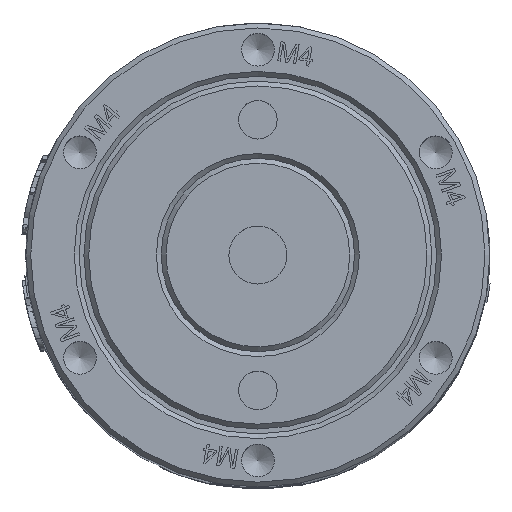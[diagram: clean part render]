
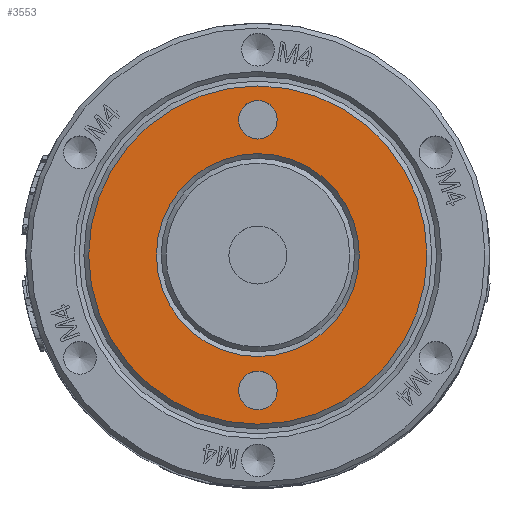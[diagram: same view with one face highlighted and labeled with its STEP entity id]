
A CAD part, top view. The second image highlights one B-rep face of the part: STEP entity #3553.
In plain terms, the highlighted planar face has unit normal (0, 0, 1).
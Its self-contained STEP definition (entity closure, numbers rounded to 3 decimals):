
#702=FACE_BOUND('',#8566,.T.);
#703=FACE_BOUND('',#8567,.T.);
#704=FACE_BOUND('',#8568,.T.);
#705=FACE_BOUND('',#8569,.T.);
#1156=CIRCLE('',#36927,2.);
#1157=CIRCLE('',#36929,2.);
#1158=CIRCLE('',#36931,10.5);
#1159=CIRCLE('',#36932,17.5);
#3553=ADVANCED_FACE('',(#702,#703,#704,#705),#4770,.T.);
#4770=PLANE('',#36933);
#8566=EDGE_LOOP('',(#20755));
#8567=EDGE_LOOP('',(#20756));
#8568=EDGE_LOOP('',(#20757));
#8569=EDGE_LOOP('',(#20758));
#20755=ORIENTED_EDGE('',*,*,#31263,.T.);
#20756=ORIENTED_EDGE('',*,*,#31262,.T.);
#20757=ORIENTED_EDGE('',*,*,#31264,.T.);
#20758=ORIENTED_EDGE('',*,*,#31265,.T.);
#26239=VERTEX_POINT('',#66868);
#26240=VERTEX_POINT('',#66871);
#26241=VERTEX_POINT('',#66874);
#26242=VERTEX_POINT('',#66876);
#31262=EDGE_CURVE('',#26239,#26239,#1156,.T.);
#31263=EDGE_CURVE('',#26240,#26240,#1157,.T.);
#31264=EDGE_CURVE('',#26241,#26241,#1158,.T.);
#31265=EDGE_CURVE('',#26242,#26242,#1159,.T.);
#36927=AXIS2_PLACEMENT_3D('',#66867,#42098,#42099);
#36929=AXIS2_PLACEMENT_3D('',#66870,#42102,#42103);
#36931=AXIS2_PLACEMENT_3D('',#66873,#42106,#42107);
#36932=AXIS2_PLACEMENT_3D('',#66875,#42108,#42109);
#36933=AXIS2_PLACEMENT_3D('',#66877,#42110,#42111);
#42098=DIRECTION('',(0.,0.,-1.));
#42099=DIRECTION('',(-1.,0.,0.));
#42102=DIRECTION('',(0.,0.,-1.));
#42103=DIRECTION('',(1.,0.,0.));
#42106=DIRECTION('',(0.,0.,-1.));
#42107=DIRECTION('',(1.,0.,0.));
#42108=DIRECTION('',(0.,0.,1.));
#42109=DIRECTION('',(1.,0.,0.));
#42110=DIRECTION('',(0.,0.,1.));
#42111=DIRECTION('',(1.,0.,0.));
#66867=CARTESIAN_POINT('',(0.,-14.,125.5));
#66868=CARTESIAN_POINT('',(-2.,-14.,125.5));
#66870=CARTESIAN_POINT('',(0.,14.,125.5));
#66871=CARTESIAN_POINT('',(2.,14.,125.5));
#66873=CARTESIAN_POINT('',(0.,0.,125.5));
#66874=CARTESIAN_POINT('',(10.5,0.,125.5));
#66875=CARTESIAN_POINT('',(0.,0.,125.5));
#66876=CARTESIAN_POINT('',(17.5,0.,125.5));
#66877=CARTESIAN_POINT('',(0.,0.,125.5));
